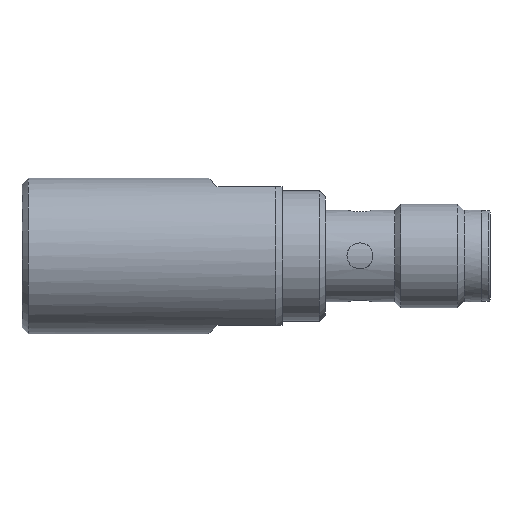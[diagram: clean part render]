
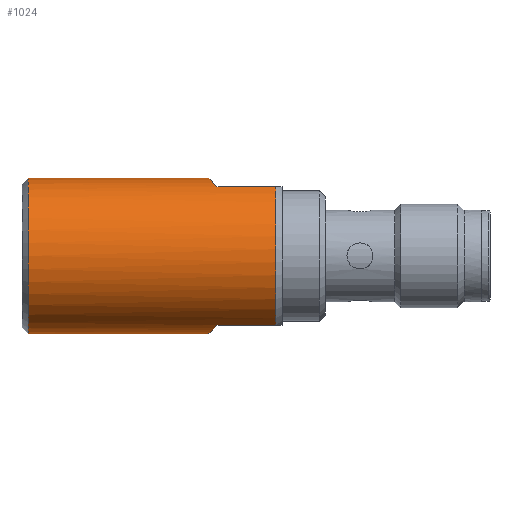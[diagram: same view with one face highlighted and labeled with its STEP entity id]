
A CAD part, top view. The second image highlights one B-rep face of the part: STEP entity #1024.
In plain terms, the highlighted cylindrical face has radius 9 mm (diameter 18 mm), a full revolution.
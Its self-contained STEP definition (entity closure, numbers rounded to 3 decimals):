
#68=ELLIPSE('',#1095,12.728,9.);
#69=ELLIPSE('',#1097,12.728,9.);
#78=LINE('',#1521,#120);
#79=LINE('',#1525,#121);
#80=LINE('',#1529,#122);
#81=LINE('',#1532,#123);
#120=VECTOR('',#1231,6.801);
#121=VECTOR('',#1234,6.801);
#122=VECTOR('',#1237,6.801);
#123=VECTOR('',#1240,6.801);
#162=CYLINDRICAL_SURFACE('',#1093,9.);
#189=FACE_BOUND('',#271,.T.);
#222=FACE_OUTER_BOUND('',#270,.T.);
#270=EDGE_LOOP('',(#743,#744,#745,#746,#747,#748,#749,#750));
#271=EDGE_LOOP('',(#751));
#350=CIRCLE('',#1092,9.);
#351=CIRCLE('',#1094,9.);
#352=CIRCLE('',#1096,9.);
#419=VERTEX_POINT('',#1514);
#420=VERTEX_POINT('',#1517);
#421=VERTEX_POINT('',#1518);
#422=VERTEX_POINT('',#1520);
#423=VERTEX_POINT('',#1522);
#424=VERTEX_POINT('',#1524);
#425=VERTEX_POINT('',#1526);
#426=VERTEX_POINT('',#1528);
#427=VERTEX_POINT('',#1530);
#572=EDGE_CURVE('',#419,#419,#350,.T.);
#573=EDGE_CURVE('',#420,#421,#351,.T.);
#574=EDGE_CURVE('',#420,#422,#78,.T.);
#575=EDGE_CURVE('',#422,#423,#68,.T.);
#576=EDGE_CURVE('',#423,#424,#79,.T.);
#577=EDGE_CURVE('',#425,#424,#352,.T.);
#578=EDGE_CURVE('',#425,#426,#80,.T.);
#579=EDGE_CURVE('',#426,#427,#69,.T.);
#580=EDGE_CURVE('',#427,#421,#81,.T.);
#743=ORIENTED_EDGE('',*,*,#573,.F.);
#744=ORIENTED_EDGE('',*,*,#574,.T.);
#745=ORIENTED_EDGE('',*,*,#575,.T.);
#746=ORIENTED_EDGE('',*,*,#576,.T.);
#747=ORIENTED_EDGE('',*,*,#577,.F.);
#748=ORIENTED_EDGE('',*,*,#578,.T.);
#749=ORIENTED_EDGE('',*,*,#579,.T.);
#750=ORIENTED_EDGE('',*,*,#580,.T.);
#751=ORIENTED_EDGE('',*,*,#572,.F.);
#1024=ADVANCED_FACE('',(#222,#189),#162,.T.);
#1092=AXIS2_PLACEMENT_3D('',#1515,#1225,#1226);
#1093=AXIS2_PLACEMENT_3D('',#1516,#1227,#1228);
#1094=AXIS2_PLACEMENT_3D('',#1519,#1229,#1230);
#1095=AXIS2_PLACEMENT_3D('',#1523,#1232,#1233);
#1096=AXIS2_PLACEMENT_3D('',#1527,#1235,#1236);
#1097=AXIS2_PLACEMENT_3D('',#1531,#1238,#1239);
#1225=DIRECTION('center_axis',(-1.,0.,0.));
#1226=DIRECTION('ref_axis',(0.,0.,-1.));
#1227=DIRECTION('center_axis',(1.,0.,0.));
#1228=DIRECTION('ref_axis',(0.,0.,-1.));
#1229=DIRECTION('center_axis',(1.,0.,0.));
#1230=DIRECTION('ref_axis',(0.,0.889,0.458));
#1231=DIRECTION('',(-1.,0.,0.));
#1232=DIRECTION('center_axis',(-0.707,-0.707,0.));
#1233=DIRECTION('ref_axis',(-0.707,0.707,0.));
#1234=DIRECTION('',(1.,0.,0.));
#1235=DIRECTION('center_axis',(1.,0.,0.));
#1236=DIRECTION('ref_axis',(0.,-0.889,-0.458));
#1237=DIRECTION('',(-1.,0.,0.));
#1238=DIRECTION('center_axis',(-0.707,0.707,0.));
#1239=DIRECTION('ref_axis',(0.707,0.707,0.));
#1240=DIRECTION('',(1.,0.,0.));
#1514=CARTESIAN_POINT('',(-29.3,0.,9.));
#1515=CARTESIAN_POINT('Origin',(-29.3,0.,0.));
#1516=CARTESIAN_POINT('Origin',(-15.,0.,0.));
#1517=CARTESIAN_POINT('',(-0.7,8.,4.123));
#1518=CARTESIAN_POINT('',(-0.7,-8.,4.123));
#1519=CARTESIAN_POINT('Origin',(-0.7,0.,0.));
#1520=CARTESIAN_POINT('',(-7.501,8.,4.123));
#1521=CARTESIAN_POINT('',(-0.7,8.,4.123));
#1522=CARTESIAN_POINT('',(-7.501,8.,-4.123));
#1523=CARTESIAN_POINT('Origin',(0.499,0.,0.));
#1524=CARTESIAN_POINT('',(-0.7,8.,-4.123));
#1525=CARTESIAN_POINT('',(-7.501,8.,-4.123));
#1526=CARTESIAN_POINT('',(-0.7,-8.,-4.123));
#1527=CARTESIAN_POINT('Origin',(-0.7,0.,0.));
#1528=CARTESIAN_POINT('',(-7.501,-8.,-4.123));
#1529=CARTESIAN_POINT('',(-0.7,-8.,-4.123));
#1530=CARTESIAN_POINT('',(-7.501,-8.,4.123));
#1531=CARTESIAN_POINT('Origin',(0.499,0.,0.));
#1532=CARTESIAN_POINT('',(-7.501,-8.,4.123));
